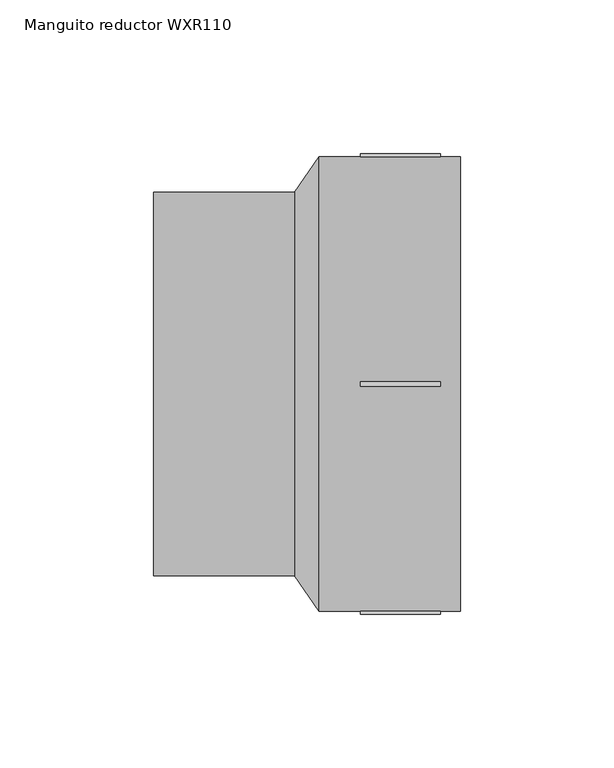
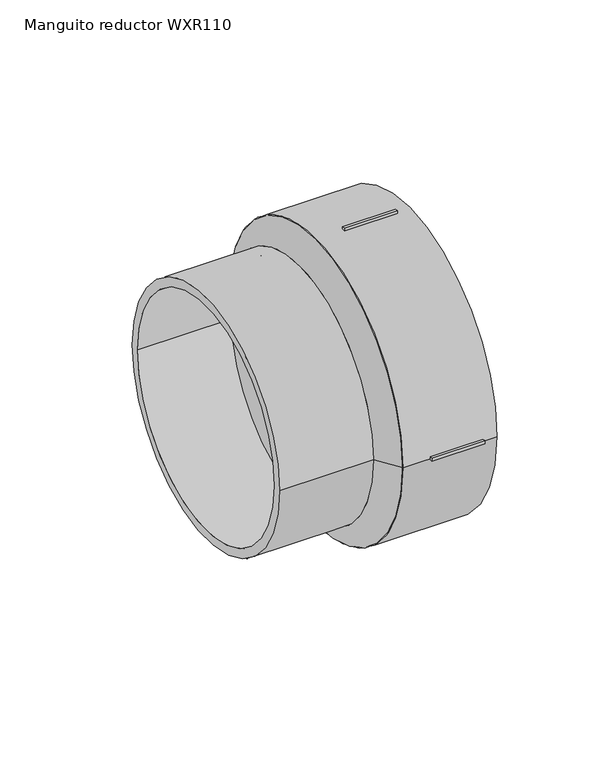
"""IFC4 building model written with IfcOpenShell, lengths in millimetres: pipe fitting geometry, EGB_VASEN_ PPR_Manguito reductor WXR110 : Manguito reductor WXR110."""

from ifc_helpers import new_model, si_unit, point, frame, origin, origin_2d, place, context, project, spatial, polyline, circle_curve, trimmed, segment, composite_curve, outline, extrude, source, transform, mapped, element, save
from ifc_brep_helpers import plane_surface, revolved_surface, advanced_brep


def manguito_reductor_wxr110_55857f22(model_context):
    return source(origin(), model_context, "Body", "SolidModel", [
        extrude(outline(polyline([(17.5, -0.75), (17.5, 0.75), (43.5, 0.75), (43.5, -0.75), (17.5, -0.75)])), frame((0.0, 0.0, 73.0), z_axis=(0.0, 0.0, 1.0), x_axis=(1.0, 0.0, 0.0)), (0.0, 0.0, 1.0), 2.0),
        extrude(outline(polyline([(17.5, -0.75), (17.5, 0.75), (43.5, 0.75), (43.5, -0.75), (17.5, -0.75)])), frame((0.0, 0.0, -75.0), z_axis=(0.0, 0.0, 1.0), x_axis=(1.0, 0.0, 0.0)), (0.0, 0.0, 1.0), 2.0),
        extrude(outline(polyline([(17.5, 73.0), (17.5, 75.0), (43.5, 75.0), (43.5, 73.0), (17.5, 73.0)])), frame((0.0, 0.0, -0.75), z_axis=(0.0, 0.0, 1.0), x_axis=(1.0, 0.0, 0.0)), (0.0, 0.0, 1.0), 1.5),
        extrude(outline(polyline([(17.5, -75.0), (17.5, -73.0), (43.5, -73.0), (43.5, -75.0), (17.5, -75.0)])), frame((0.0, 0.0, -0.75), z_axis=(0.0, 0.0, 1.0), x_axis=(1.0, 0.0, 0.0)), (0.0, 0.0, 1.0), 1.5),
        extrude(outline(composite_curve([segment(trimmed(circle_curve(origin_2d(), 74.0), [point((-74.0, 0.0))], [point((74.0, 0.0))], False, "CARTESIAN"), True, "CONTINUOUS"), segment(trimmed(circle_curve(origin_2d(), 74.0), [point((74.0, 0.0))], [point((-74.0, 0.0))], False, "CARTESIAN"), True, "CONTINUOUS")], self_intersect=False), holes=[composite_curve([segment(trimmed(circle_curve(origin_2d(), 55.0), [point((-55.0, 0.0))], [point((55.0, 0.0))], True, "CARTESIAN"), True, "CONTINUOUS"), segment(trimmed(circle_curve(origin_2d(), 55.0), [point((55.0, 0.0))], [point((-55.0, 0.0))], True, "CARTESIAN"), True, "CONTINUOUS")], self_intersect=False)]), frame((4.0, 0.0, 0.0), z_axis=(1.0, 0.0, 0.0), x_axis=(0.0, 1.0, 0.0)), (0.0, 0.0, 1.0), 46.0),
        extrude(outline(composite_curve([segment(trimmed(circle_curve(origin_2d(), 62.5), [point((-62.5, 0.0))], [point((62.5, 0.0))], False, "CARTESIAN"), True, "CONTINUOUS"), segment(trimmed(circle_curve(origin_2d(), 62.5), [point((62.5, 0.0))], [point((-62.5, 0.0))], False, "CARTESIAN"), True, "CONTINUOUS")], self_intersect=False), holes=[composite_curve([segment(trimmed(circle_curve(origin_2d(), 58.0), [point((-58.0, 0.0))], [point((58.0, 0.0))], True, "CARTESIAN"), True, "CONTINUOUS"), segment(trimmed(circle_curve(origin_2d(), 58.0), [point((58.0, 0.0))], [point((-58.0, 0.0))], True, "CARTESIAN"), True, "CONTINUOUS")], self_intersect=False)]), frame((-50.0, 0.0, 0.0), z_axis=(1.0, 0.0, 0.0), x_axis=(0.0, 1.0, 0.0)), (0.0, 0.0, 1.0), 46.0),
        advanced_brep(
        [(4.0, -74.0, 0.0), (4.0, 74.0, 0.0), (-4.0, -62.5, 0.0), (-4.0, 62.5, 0.0)],
        [
            (0, 1, circle_curve(frame((4.0, 0.0, 0.0), z_axis=(1.0, 0.0, 0.0), x_axis=(0.0, -1.0, 0.0)), 74.0)),
            (1, 0, circle_curve(frame((4.0, 0.0, 0.0), z_axis=(1.0, 0.0, 0.0), x_axis=(0.0, 1.0, 0.0)), 74.0)),
            (2, 3, circle_curve(frame((-4.0, 0.0, 0.0), z_axis=(-1.0, 0.0, 0.0), x_axis=(0.0, 1.0, 0.0)), 62.5)),
            (3, 2, circle_curve(frame((-4.0, 0.0, 0.0), z_axis=(-1.0, 0.0, 0.0), x_axis=(0.0, -1.0, 0.0)), 62.5)),
            (3, 1),
            (0, 2),
        ],
        [
            plane_surface(frame((4.0, 0.0, 0.0), z_axis=(1.0, 0.0, 0.0), x_axis=(0.0, 0.0, -1.0))),
            plane_surface(frame((-4.0, 0.0, 0.0), z_axis=(-1.0, 0.0, 0.0), x_axis=(0.0, 0.0, -1.0))),
            revolved_surface(polyline([(-4.0, 62.500000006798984, 0.0), (4.0, 74.0, 0.0)]), (-47.4782609, 0.0, 0.0), (1.0, 0.0, 0.0)),
            revolved_surface(polyline([(-4.0, -62.500000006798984, 0.0), (4.0, -74.0, 0.0)]), (-47.4782609, 0.0, 0.0), (1.0, 0.0, 0.0)),
        ],
        [
            (0, [[1, 2]]),
            (1, [[3, 4]]),
            (2, [[-4, 5, -1, 6]]),
            (3, [[-3, -6, -2, -5]]),
        ],
    ),
    ])


if __name__ == "__main__":
    model = new_model("IFC4")
    model_context = context("Model", 3, world=origin())
    ifc_project = project(units=[si_unit("LENGTHUNIT", "METRE", prefix="MILLI")], contexts=[model_context])
    site = spatial("IfcSite", under=ifc_project)
    building = spatial("IfcBuilding", under=site)
    placement = place(None, origin())
    manguito_reductor_wxr110_shape = manguito_reductor_wxr110_55857f22(model_context)
    element("IfcPipeFitting", 1, ObjectType="EGB_VASEN_ PPR_Manguito reductor WXR110 : Manguito reductor WXR110", at=placement, inside=building, context=model_context, shape_type="MappedRepresentation", body=[
        mapped(manguito_reductor_wxr110_shape, transform((0.0, 0.0, 0.0), x_axis=(1.0, 0.0, 0.0), y_axis=(0.0, 1.0, 0.0), z_axis=(0.0, 0.0, 1.0))),
    ])
    save(model, "model.ifc")
